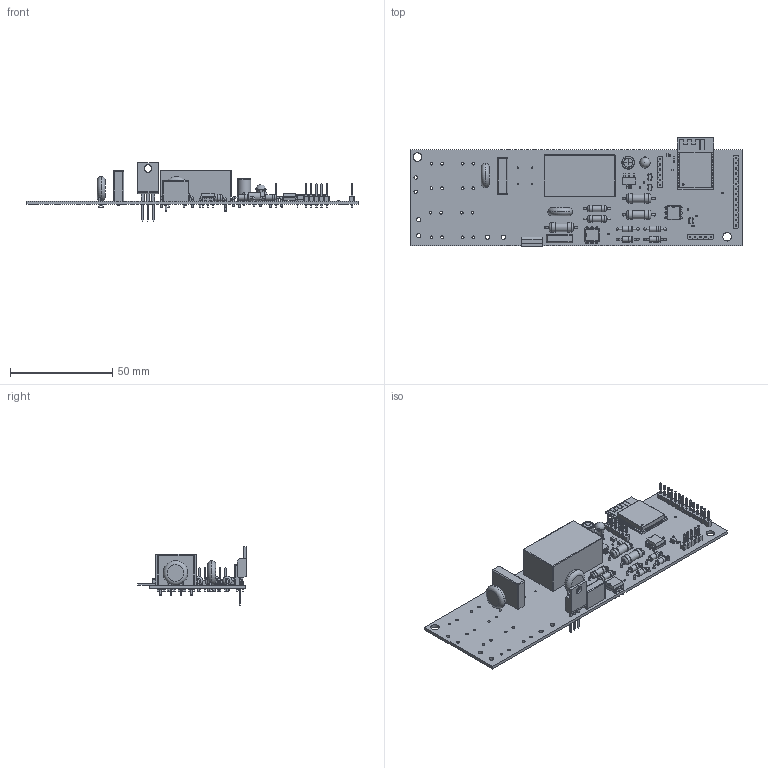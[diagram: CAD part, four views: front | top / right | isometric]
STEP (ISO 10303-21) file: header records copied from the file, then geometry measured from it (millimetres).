
FILE_DESCRIPTION(('KiCad electronic assembly'),'2;1');
FILE_NAME('3D_Model.step','2026-03-02T17:05:27',('Pcbnew'),('Kicad'), 'Open CASCADE STEP processor 7.9','KiCad to STEP converter','Unknown' );
FILE_SCHEMA(('AUTOMOTIVE_DESIGN { 1 0 10303 214 1 1 1 1 }'));
Length unit declared in the file: millimetre
Products named in the file (24): 3D_Model 1; R_0402_1005Metric; PinHeader_1x05_P2.54mm_Vertical; R_Axial_DIN0414_L11.9mm_D4.5mm_P15.24mm_Horizontal; DIP-6_W7.62mm; RV_Disc_D12mm_W3.9mm_P7.5mm; SOT-23-5; D_DO-41_SOD81_P10.16mm_Horizontal; C_0402_1005Metric; R_Axial_DIN0309_L9.0mm_D3.2mm_P12.70mm_Horizontal; TO-220-3_Vertical; PinHeader_1x06_P2.54mm_Vertical; SOT-23-3; ESP32-WROOM-32; C_Rect_L13.0mm_W4.0mm_P10.00mm_FKS3_FKP3_MKS4; PinHeader_1x14_P2.54mm_Vertical; R_0603_1608Metric; C_0603_1608Metric; CP_Radial_Tantal_D5.0mm_P5.00mm; C_Rect_L18.0mm_W5.0mm_P15.00mm_FKS3_FKP3; Converter_ACDC_Hi-Link_HLK-PMxx; C_Radial_D6.3mm_H11.0mm_P2.50mm; SOT-223; 3dFilamentDryer_PCB
Assembly tree (40 placements, depth 2):
  3D_Model 1
    R_0402_1005Metric  x7
    PinHeader_1x05_P2.54mm_Vertical
    R_Axial_DIN0414_L11.9mm_D4.5mm_P15.24mm_Horizontal  x3
    DIP-6_W7.62mm  x2
    RV_Disc_D12mm_W3.9mm_P7.5mm  x2
    SOT-23-5
    D_DO-41_SOD81_P10.16mm_Horizontal  x4
    C_0402_1005Metric  x3
    R_Axial_DIN0309_L9.0mm_D3.2mm_P12.70mm_Horizontal  x2
    TO-220-3_Vertical
    PinHeader_1x06_P2.54mm_Vertical
    SOT-23-3  x2
    ESP32-WROOM-32
    C_Rect_L13.0mm_W4.0mm_P10.00mm_FKS3_FKP3_MKS4
    PinHeader_1x14_P2.54mm_Vertical
    R_0603_1608Metric
    C_0603_1608Metric
    CP_Radial_Tantal_D5.0mm_P5.00mm
    C_Rect_L18.0mm_W5.0mm_P15.00mm_FKS3_FKP3
    Converter_ACDC_Hi-Link_HLK-PMxx
    C_Radial_D6.3mm_H11.0mm_P2.50mm
    SOT-223
    3dFilamentDryer_PCB
Bounding box: 162.5 x 53.02 x 28.52 mm (x, y, z)
Volume: 28219.3 mm3; surface area: 26653.3 mm2
Topology: 40 solids, 42 shells, 2734 faces, 6834 edges, 4285 vertices
Faces by surface type: plane 2036, cylinder 531, bspline 101, torus 43, sphere 19, revolution 4
Full cylindrical faces by diameter (mm): 0.2 x12, 0.5 x4, 0.6 x2, 0.7 x10, 0.72 x4, 0.8 x62, 0.9 x2, 1 x31, 1.1 x11, 1.2 x8, 1.3 x16, 1.6 x2, 2.15 x4, 2.7 x8, 2.72 x4, 2.88 x2, 3.2 x4, 3.735 x1, 4.05 x3, 4.2 x2, 4.41 x3, 4.5 x6, 6.3 x2, 12 x2
Entity records: 85809 total; most frequent: CARTESIAN_POINT 15766, ORIENTED_EDGE 11241, DIRECTION 10939, EDGE_CURVE 5621, LINE 4395, VECTOR 4395, VERTEX_POINT 3526, AXIS2_PLACEMENT_3D 3270
